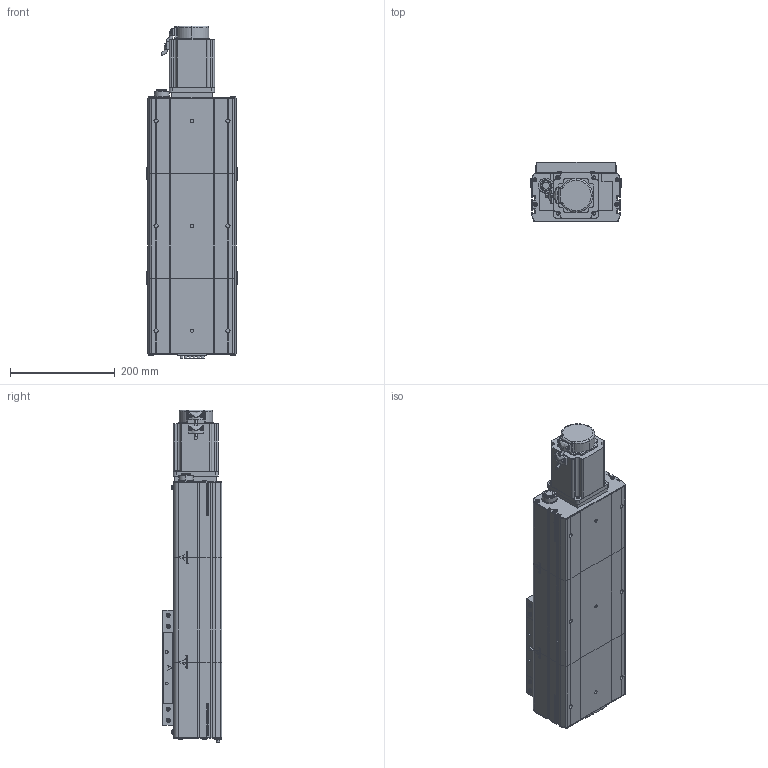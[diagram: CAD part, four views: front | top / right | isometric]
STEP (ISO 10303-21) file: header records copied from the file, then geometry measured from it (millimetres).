
FILE_DESCRIPTION (( 'STEP AP214' ), '1' );
FILE_NAME ('D17 CSH MD S200.STEP', '2010-06-29T13:50:01', ( 'Christophe Gaillard' ), ( 'SGA' ), 'SwSTEP 2.0', 'SolidWorks 2010', '' );
FILE_SCHEMA (( 'AUTOMOTIVE_DESIGN' ));
Length unit declared in the file: millimetre
Products named in the file (25): Corp Head D17 MD_Default; D17 CSH MD S200; Plaque de bout D17 head_Default; Head D17 MD_Default; Conecteur_Default; couvercle D17 head_Default; Moteur motionking 90BLDC100A-640; Conecteur2_Default; plaque de serrage D17 head_Default; avant 90BLDC100A-640; corps 90BLDC100A-640; codeur 90BLDC100-640; Corp D17 S200_Default; Corp L200_Default; chariot D17_Default; support chariot D17_Default; Plaque de bout D17_Default; Corp Tail D17_Default; Chariot D17_Default; plaque de serrage D17_Default; couvercle D17_Default; couvercle D17-200_Default; Tail D17_Default; vis M5 L15_Default; glissiere_Default
Assembly tree (44 placements, depth 4):
  D17 CSH MD S200
    Chariot D17_Default
      chariot D17_Default
      support chariot D17_Default
      vis M5 L15_Default  x8
      glissiere_Default
    Head D17 MD_Default
      Moteur motionking 90BLDC100A-640
        avant 90BLDC100A-640
        codeur 90BLDC100-640
        Conecteur2_Default
        Conecteur_Default
        corps 90BLDC100A-640
      vis M5 L15_Default  x7
      plaque de serrage D17 head_Default
      Plaque de bout D17 head_Default
      couvercle D17 head_Default
      Corp Head D17 MD_Default
    Corp D17 S200_Default
      Corp L200_Default
      couvercle D17-200_Default
    Tail D17_Default
      plaque de serrage D17_Default
      vis M5 L15_Default  x6
      Corp Tail D17_Default
      couvercle D17_Default
      Plaque de bout D17_Default
Bounding box: 172 x 114 x 633 mm (x, y, z)
Volume: 4457532.1 mm3; surface area: 838361 mm2
Topology: 81 solids, 81 shells, 2933 faces, 7430 edges, 4872 vertices
Faces by surface type: plane 1780, bspline 710, cylinder 348, torus 53, cone 42
Entity records: 142319 total; most frequent: CARTESIAN_POINT 78081, ORIENTED_EDGE 12856, DIRECTION 9086, EDGE_CURVE 6428, VECTOR 4420, LINE 4420, VERTEX_POINT 4272, EDGE_LOOP 2710
